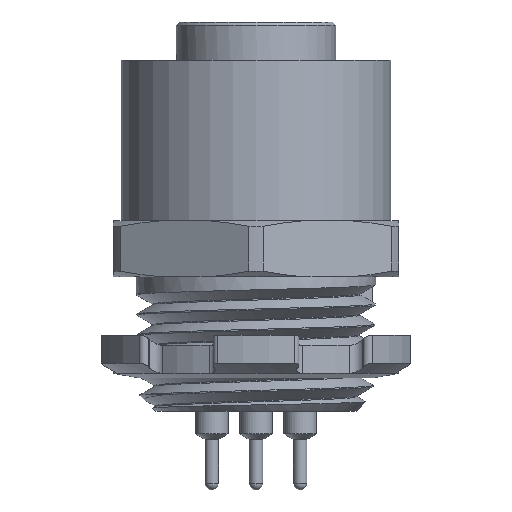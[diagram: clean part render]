
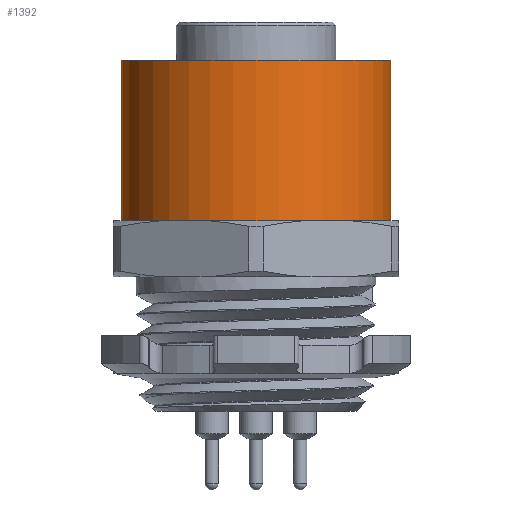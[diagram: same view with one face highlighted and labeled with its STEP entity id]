
A CAD part, front view. The second image highlights one B-rep face of the part: STEP entity #1392.
In plain terms, the highlighted cylindrical face has radius 12 mm (diameter 24 mm), a full revolution.
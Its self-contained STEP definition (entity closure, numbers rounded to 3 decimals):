
#646 = EDGE_LOOP ( 'NONE', ( #5695 ) ) ;
#687 = DIRECTION ( 'NONE',  ( 0., 0., 1. ) ) ;
#750 = DIRECTION ( 'NONE',  ( 1., 0., 0. ) ) ;
#898 = DIRECTION ( 'NONE',  ( 1., 0., 0. ) ) ;
#1392 = ADVANCED_FACE ( 'NONE', ( #8338, #2495 ), #4092, .T. ) ;
#1509 = CARTESIAN_POINT ( 'NONE',  ( 0., 0., -3.4 ) ) ;
#2325 = DIRECTION ( 'NONE',  ( 0., 0., 1. ) ) ;
#2495 = FACE_OUTER_BOUND ( 'NONE', #6271, .T. ) ;
#2657 = VERTEX_POINT ( 'NONE', #7765 ) ;
#4092 = CYLINDRICAL_SURFACE ( 'NONE', #7759, 12. ) ;
#4101 = ORIENTED_EDGE ( 'NONE', *, *, #5767, .F. ) ;
#4762 = DIRECTION ( 'NONE',  ( 0., 0., 1. ) ) ;
#4814 = CIRCLE ( 'NONE', #10269, 12. ) ;
#4938 = AXIS2_PLACEMENT_3D ( 'NONE', #7754, #687, #10197 ) ;
#5695 = ORIENTED_EDGE ( 'NONE', *, *, #9799, .T. ) ;
#5767 = EDGE_CURVE ( 'NONE', #7376, #7376, #4814, .T. ) ;
#5896 = CIRCLE ( 'NONE', #4938, 12. ) ;
#6271 = EDGE_LOOP ( 'NONE', ( #4101 ) ) ;
#7376 = VERTEX_POINT ( 'NONE', #10247 ) ;
#7754 = CARTESIAN_POINT ( 'NONE',  ( 0., 0., -17.7 ) ) ;
#7759 = AXIS2_PLACEMENT_3D ( 'NONE', #1509, #2325, #750 ) ;
#7765 = CARTESIAN_POINT ( 'NONE',  ( 12., 0., -17.7 ) ) ;
#8338 = FACE_OUTER_BOUND ( 'NONE', #646, .T. ) ;
#8852 = CARTESIAN_POINT ( 'NONE',  ( 0., 0., -3.4 ) ) ;
#9799 = EDGE_CURVE ( 'NONE', #2657, #2657, #5896, .T. ) ;
#10197 = DIRECTION ( 'NONE',  ( 1., 0., 0. ) ) ;
#10247 = CARTESIAN_POINT ( 'NONE',  ( 12., 0., -3.4 ) ) ;
#10269 = AXIS2_PLACEMENT_3D ( 'NONE', #8852, #4762, #898 ) ;
